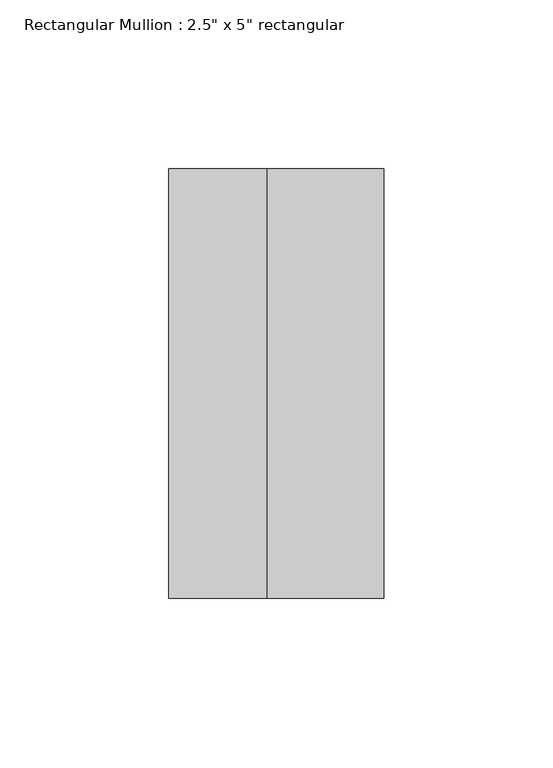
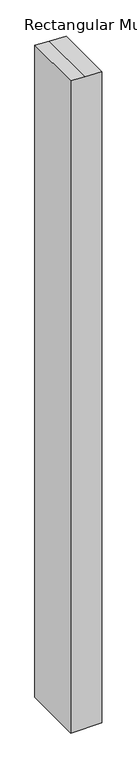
"""IFC4 building model written with IfcOpenShell, lengths in millimetres: member geometry."""

from ifc_helpers import new_model, si_unit, frame, origin, place, context, project, spatial, polyline, outline, extrude, source, transform, mapped, element, save


def member_53e56265(model_context):
    return source(origin(), model_context, "Body", "SweptSolid", [
        extrude(outline(polyline([(-64.8775557, 31.75), (-63.4449853, -2.6426951), (-62.232569, -31.75), (-1469.4704901, -31.75), (-1469.4704901, 31.75), (-64.8775557, 31.75)])), frame((0.0, -63.5, 0.0), z_axis=(0.0, 1.0, 0.0), x_axis=(0.0, 0.0, 1.0)), (0.0, 0.0, 1.0), 127.0),
    ])


if __name__ == "__main__":
    model = new_model("IFC4")
    model_context = context("Model", 3, world=origin())
    ifc_project = project(units=[si_unit("LENGTHUNIT", "METRE", prefix="MILLI")], contexts=[model_context])
    site = spatial("IfcSite", under=ifc_project)
    building = spatial("IfcBuilding", under=site)
    placement = place(None, origin())
    member_shape = member_53e56265(model_context)
    element("IfcMember", 1, ObjectType="Rectangular Mullion : 2.5\" x 5\" rectangular", at=placement, inside=building, context=model_context, shape_type="MappedRepresentation", body=[
        mapped(member_shape, transform((0.0, 0.0, 0.0), x_axis=(1.0, 0.0, 0.0), y_axis=(0.0, 1.0, 0.0), z_axis=(0.0, 0.0, 1.0))),
    ])
    save(model, "model.ifc")
